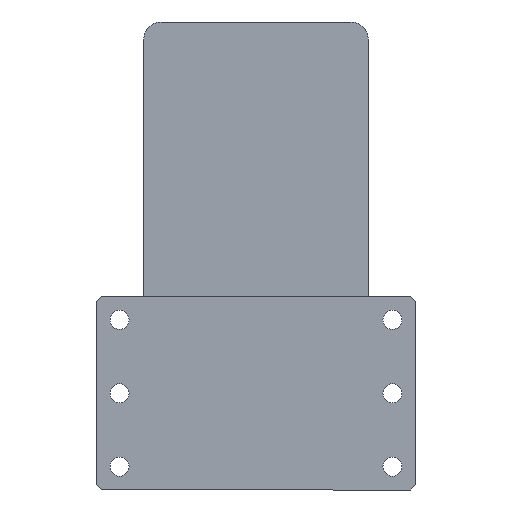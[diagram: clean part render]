
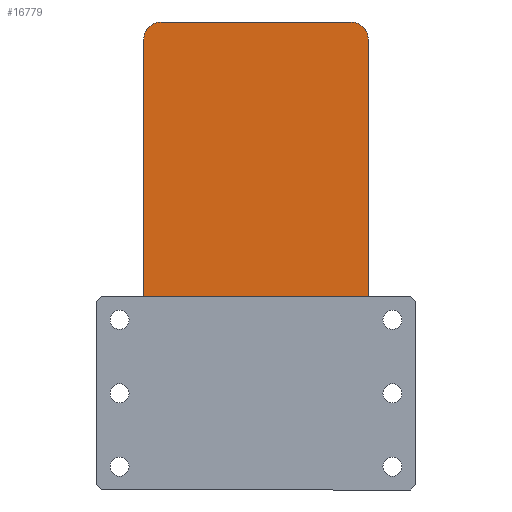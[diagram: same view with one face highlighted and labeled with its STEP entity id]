
A CAD part, left-side view. The second image highlights one B-rep face of the part: STEP entity #16779.
In plain terms, the highlighted planar face has unit normal (-1, 0, 0) as drawn and (0, 0, 1) by its records, which use the part's own axes.
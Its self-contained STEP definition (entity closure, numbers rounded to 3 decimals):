
#273 = PLANE ( 'NONE',  #16146 ) ;
#320 = EDGE_CURVE ( 'NONE', #5346, #1114, #7138, .T. ) ;
#585 = DIRECTION ( 'NONE',  ( 1., 0., 0. ) ) ;
#588 = DIRECTION ( 'NONE',  ( 0., 0., 1. ) ) ;
#608 = CARTESIAN_POINT ( 'NONE',  ( 55., 125., 105. ) ) ;
#630 = EDGE_CURVE ( 'NONE', #1114, #6771, #6312, .T. ) ;
#788 = EDGE_CURVE ( 'NONE', #3881, #8110, #5872, .T. ) ;
#944 = EDGE_CURVE ( 'NONE', #3046, #1084, #5419, .T. ) ;
#1084 = VERTEX_POINT ( 'NONE', #13603 ) ;
#1114 = VERTEX_POINT ( 'NONE', #12903 ) ;
#1171 = EDGE_CURVE ( 'NONE', #19136, #5346, #5070, .T. ) ;
#1686 = ORIENTED_EDGE ( 'NONE', *, *, #21802, .T. ) ;
#2319 = ORIENTED_EDGE ( 'NONE', *, *, #320, .T. ) ;
#2572 = VECTOR ( 'NONE', #15473, 1000. ) ;
#3046 = VERTEX_POINT ( 'NONE', #9792 ) ;
#3881 = VERTEX_POINT ( 'NONE', #16272 ) ;
#4870 = DIRECTION ( 'NONE',  ( 1., 0., 0. ) ) ;
#4884 = DIRECTION ( 'NONE',  ( 0., 0., 1. ) ) ;
#4917 = CARTESIAN_POINT ( 'NONE',  ( 55., -125., 105. ) ) ;
#5047 = AXIS2_PLACEMENT_3D ( 'NONE', #4917, #4884, #4870 ) ;
#5070 = CIRCLE ( 'NONE', #21223, 10. ) ;
#5346 = VERTEX_POINT ( 'NONE', #18516 ) ;
#5419 = CIRCLE ( 'NONE', #7256, 10. ) ;
#5872 = CIRCLE ( 'NONE', #19464, 10. ) ;
#6312 = CIRCLE ( 'NONE', #5047, 10. ) ;
#6771 = VERTEX_POINT ( 'NONE', #14732 ) ;
#6840 = ORIENTED_EDGE ( 'NONE', *, *, #788, .T. ) ;
#7066 = VECTOR ( 'NONE', #17955, 1000. ) ;
#7138 = LINE ( 'NONE', #17978, #7066 ) ;
#7256 = AXIS2_PLACEMENT_3D ( 'NONE', #13994, #13999, #14019 ) ;
#7348 = LINE ( 'NONE', #13682, #2572 ) ;
#7487 = FACE_OUTER_BOUND ( 'NONE', #22905, .T. ) ;
#8110 = VERTEX_POINT ( 'NONE', #22683 ) ;
#8254 = ORIENTED_EDGE ( 'NONE', *, *, #944, .T. ) ;
#9606 = ORIENTED_EDGE ( 'NONE', *, *, #630, .T. ) ;
#9792 = CARTESIAN_POINT ( 'NONE',  ( -55., 135., 105. ) ) ;
#10121 = ORIENTED_EDGE ( 'NONE', *, *, #1171, .T. ) ;
#11537 = LINE ( 'NONE', #12536, #19967 ) ;
#11696 = DIRECTION ( 'NONE',  ( 0., -1., 0. ) ) ;
#12165 = CARTESIAN_POINT ( 'NONE',  ( -65., -125., 105. ) ) ;
#12536 = CARTESIAN_POINT ( 'NONE',  ( 65., 135., 105. ) ) ;
#12583 = DIRECTION ( 'NONE',  ( 1., 0., 0. ) ) ;
#12606 = DIRECTION ( 'NONE',  ( 0., 0., 1. ) ) ;
#12667 = CARTESIAN_POINT ( 'NONE',  ( -55., -125., 105. ) ) ;
#12903 = CARTESIAN_POINT ( 'NONE',  ( 55., -135., 105. ) ) ;
#13603 = CARTESIAN_POINT ( 'NONE',  ( -65., 125., 105. ) ) ;
#13682 = CARTESIAN_POINT ( 'NONE',  ( -65., 135., 105. ) ) ;
#13994 = CARTESIAN_POINT ( 'NONE',  ( -55., 125., 105. ) ) ;
#13999 = DIRECTION ( 'NONE',  ( 0., 0., 1. ) ) ;
#14019 = DIRECTION ( 'NONE',  ( 1., 0., 0. ) ) ;
#14732 = CARTESIAN_POINT ( 'NONE',  ( 65., -125., 105. ) ) ;
#15473 = DIRECTION ( 'NONE',  ( -1., 0., 0. ) ) ;
#16146 = AXIS2_PLACEMENT_3D ( 'NONE', #23348, #23297, #23293 ) ;
#16231 = VECTOR ( 'NONE', #11696, 1000. ) ;
#16272 = CARTESIAN_POINT ( 'NONE',  ( 65., 125., 105. ) ) ;
#16779 = ADVANCED_FACE ( 'NONE', ( #7487 ), #273, .T. ) ;
#17617 = ORIENTED_EDGE ( 'NONE', *, *, #22542, .T. ) ;
#17955 = DIRECTION ( 'NONE',  ( 1., 0., 0. ) ) ;
#17978 = CARTESIAN_POINT ( 'NONE',  ( -65., -135., 105. ) ) ;
#18516 = CARTESIAN_POINT ( 'NONE',  ( -55., -135., 105. ) ) ;
#18567 = ORIENTED_EDGE ( 'NONE', *, *, #22834, .T. ) ;
#19136 = VERTEX_POINT ( 'NONE', #12165 ) ;
#19464 = AXIS2_PLACEMENT_3D ( 'NONE', #608, #588, #585 ) ;
#19967 = VECTOR ( 'NONE', #20908, 1000. ) ;
#20071 = CARTESIAN_POINT ( 'NONE',  ( -65., 135., 105. ) ) ;
#20908 = DIRECTION ( 'NONE',  ( 0., 1., 0. ) ) ;
#20940 = LINE ( 'NONE', #20071, #16231 ) ;
#21223 = AXIS2_PLACEMENT_3D ( 'NONE', #12667, #12606, #12583 ) ;
#21802 = EDGE_CURVE ( 'NONE', #6771, #3881, #11537, .T. ) ;
#22542 = EDGE_CURVE ( 'NONE', #8110, #3046, #7348, .T. ) ;
#22683 = CARTESIAN_POINT ( 'NONE',  ( 55., 135., 105. ) ) ;
#22834 = EDGE_CURVE ( 'NONE', #1084, #19136, #20940, .T. ) ;
#22905 = EDGE_LOOP ( 'NONE', ( #2319, #9606, #1686, #6840, #17617, #8254, #18567, #10121 ) ) ;
#23293 = DIRECTION ( 'NONE',  ( 1., 0., 0. ) ) ;
#23297 = DIRECTION ( 'NONE',  ( 0., 0., 1. ) ) ;
#23348 = CARTESIAN_POINT ( 'NONE',  ( 0., 0., 105. ) ) ;
